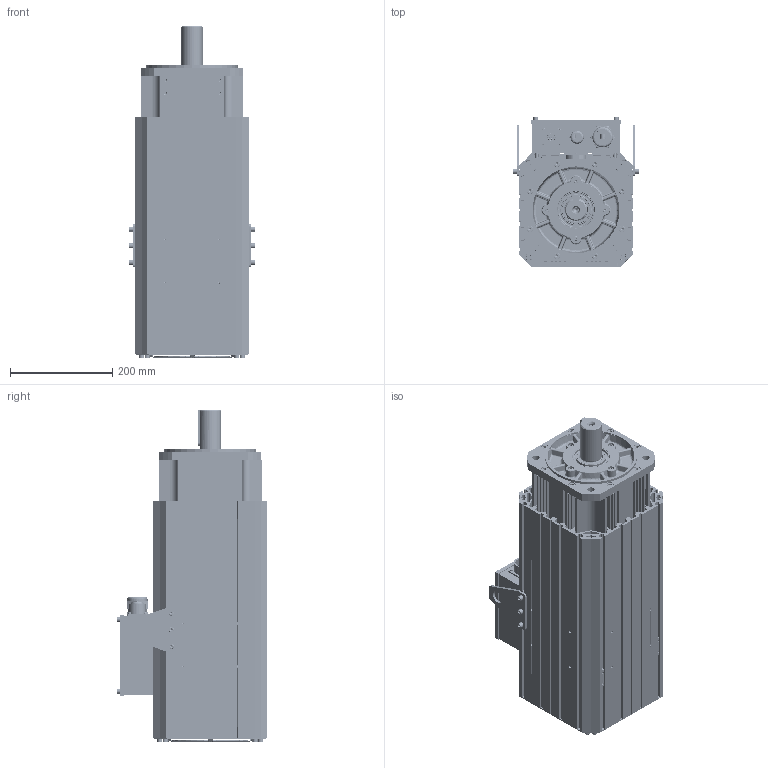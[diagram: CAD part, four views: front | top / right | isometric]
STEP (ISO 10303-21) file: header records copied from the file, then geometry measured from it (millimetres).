
FILE_DESCRIPTION (( 'STEP AP214' ), '1' );
FILE_NAME ('VM7-M20D-02215-D1FNH.STEP', '2022-04-02T01:47:14', ( '' ), ( '' ), 'SwSTEP 2.0', 'SolidWorks 2014', '' );
FILE_SCHEMA (( 'AUTOMOTIVE_DESIGN' ));
Length unit declared in the file: millimetre
Products named in the file (3): 翋极ㄗVM7-M20Dㄘ; VM7-M20D-02215-D1FNH; 俋褲ㄗVM7-M20Dㄘ
Assembly tree (2 placements, depth 2):
  VM7-M20D-02215-D1FNH
    翋极ㄗVM7-M20Dㄘ
    俋褲ㄗVM7-M20Dㄘ
Bounding box: 246.2 x 294.7 x 649 mm (x, y, z)
Volume: 2134379.2 mm3; surface area: 2848075.4 mm2
Topology: 45 solids, 183 shells, 5660 faces, 14472 edges, 9117 vertices
Faces by surface type: plane 3221, cylinder 1323, cone 587, bspline 529
Entity records: 187119 total; most frequent: CARTESIAN_POINT 50233, ORIENTED_EDGE 28442, DIRECTION 27688, EDGE_CURVE 14230, AXIS2_PLACEMENT_3D 9527, VERTEX_POINT 9117, LINE 8634, VECTOR 8634
